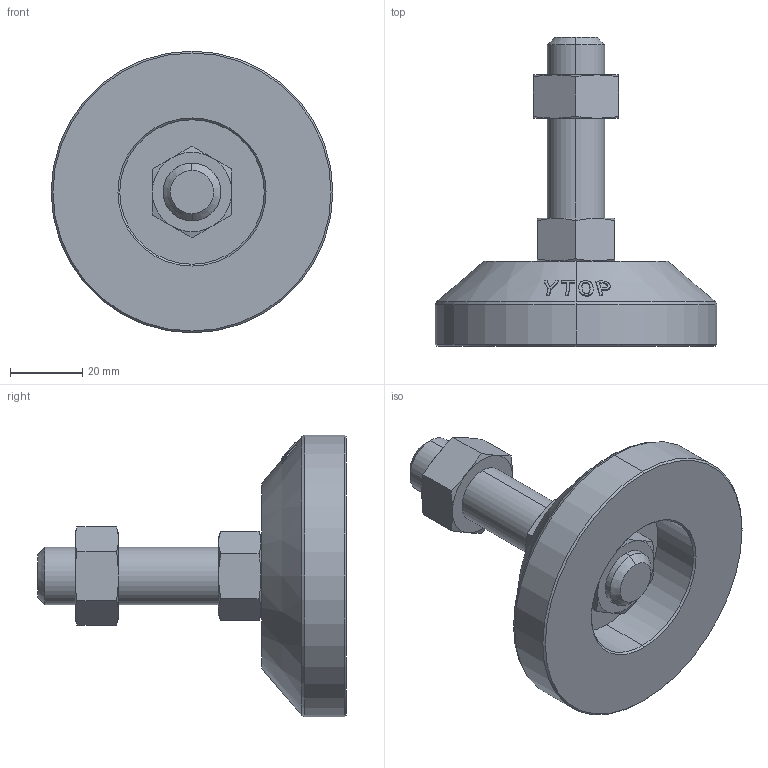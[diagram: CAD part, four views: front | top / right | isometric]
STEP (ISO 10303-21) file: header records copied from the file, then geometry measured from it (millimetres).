
FILE_DESCRIPTION (( 'STEP AP203' ), '1' );
FILE_NAME ('M-80-1650-S.STEP', '2020-09-10T06:59:33', ( '' ), ( '' ), 'SwSTEP 2.0', 'SolidWorks 2016', '' );
FILE_SCHEMA (( 'CONFIG_CONTROL_DESIGN' ));
Length unit declared in the file: millimetre
Products named in the file (5): 不锈钢双头螺杆M16系列_M16X50; 脚垫调节六角螺母M16; M-80-1650-S; M-80-1褐菜 ; 脚垫锁紧六角薄螺母M16
Assembly tree (4 placements, depth 2):
  M-80-1650-S
    M-80-1褐菜 
    不锈钢双头螺杆M16系列_M16X50
    脚垫锁紧六角薄螺母M16
    脚垫调节六角螺母M16
Bounding box: 78 x 85.5 x 78 mm (x, y, z)
Volume: 99787.1 mm3; surface area: 23588.9 mm2
Topology: 4 solids, 4 shells, 143 faces, 326 edges, 200 vertices
Faces by surface type: cone 62, bspline 38, plane 29, cylinder 14
Entity records: 8411 total; most frequent: CARTESIAN_POINT 5074, ORIENTED_EDGE 652, DIRECTION 456, EDGE_CURVE 326, VERTEX_POINT 200, AXIS2_PLACEMENT_3D 196, B_SPLINE_CURVE_WITH_KNOTS 178, EDGE_LOOP 158
